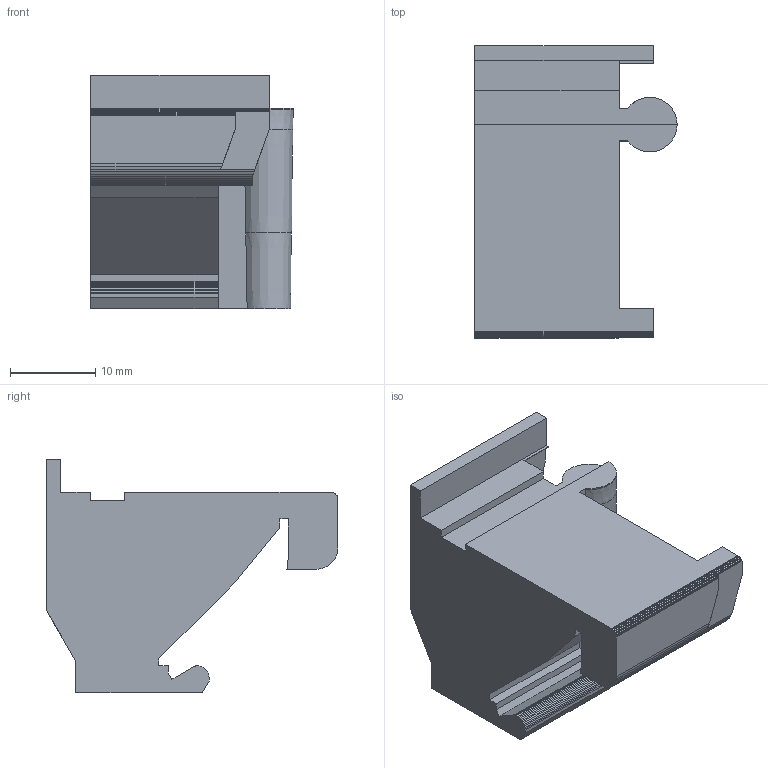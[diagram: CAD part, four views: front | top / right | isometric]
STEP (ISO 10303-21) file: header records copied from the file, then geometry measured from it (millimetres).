
FILE_DESCRIPTION(('Open CASCADE Model'),'2;1');
FILE_NAME('Open CASCADE Shape Model','2026-10-27T10:01:13',('Author'),( 'Open CASCADE'),'Open CASCADE STEP processor 8.0','build123d', 'Unknown');
FILE_SCHEMA(('AUTOMOTIVE_DESIGN { 1 0 10303 214 1 1 1 1 }'));
Length unit declared in the file: millimetre
Products named in the file (1): SOLID
Bounding box: 23.7 x 34.2 x 27.4 mm (x, y, z)
Volume: 9369.1 mm3; surface area: 3937.7 mm2
Topology: 1 solids, 1 shells, 104 faces, 310 edges, 208 vertices
Faces by surface type: plane 99, cone 3, bspline 1, cylinder 1
Entity records: 7317 total; most frequent: CARTESIAN_POINT 2051, DIRECTION 664, ORIENTED_EDGE 620, PCURVE 620, DEFINITIONAL_REPRESENTATION 620, B_SPLINE_CURVE_WITH_KNOTS 480, LINE 441, VECTOR 441
